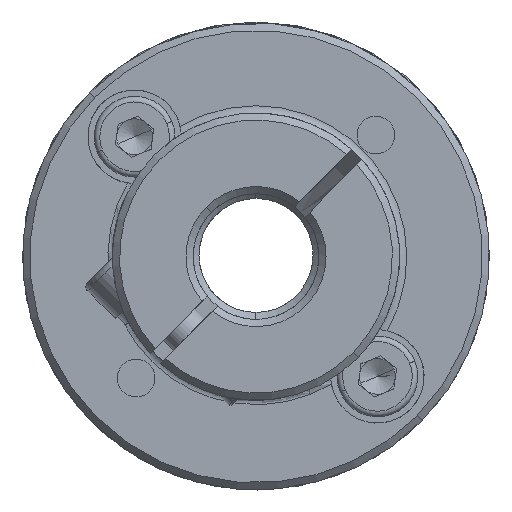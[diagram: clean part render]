
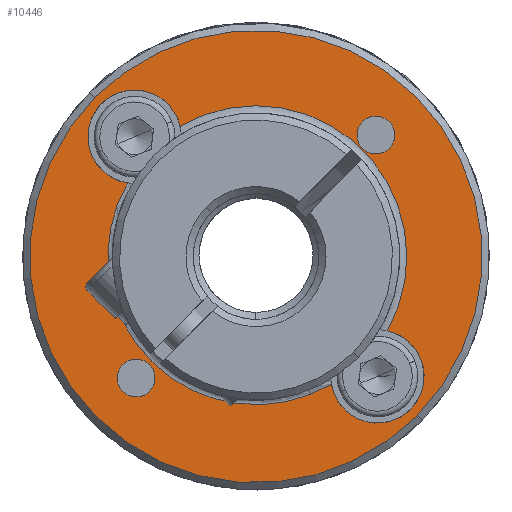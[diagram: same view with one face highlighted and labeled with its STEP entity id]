
A CAD part, front view. The second image highlights one B-rep face of the part: STEP entity #10446.
In plain terms, the highlighted planar face has unit normal (0, -1, 0).
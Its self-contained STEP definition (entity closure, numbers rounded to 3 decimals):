
#40 = DIRECTION ( 'NONE',  ( 0., 1., 0. ) ) ;
#317 = DIRECTION ( 'NONE',  ( 0., 1., 0. ) ) ;
#368 = VERTEX_POINT ( 'NONE', #10139 ) ;
#554 = EDGE_CURVE ( 'NONE', #14956, #13658, #15201, .T. ) ;
#579 = ORIENTED_EDGE ( 'NONE', *, *, #554, .T. ) ;
#591 = EDGE_CURVE ( 'NONE', #1332, #368, #15935, .T. ) ;
#787 = CIRCLE ( 'NONE', #4153, 12.6 ) ;
#926 = EDGE_CURVE ( 'NONE', #3551, #9290, #5737, .T. ) ;
#990 = CARTESIAN_POINT ( 'NONE',  ( -13.043, -18.979, 34.789 ) ) ;
#1194 = CARTESIAN_POINT ( 'NONE',  ( -4.076, -18.979, 25.938 ) ) ;
#1225 = CARTESIAN_POINT ( 'NONE',  ( 4.536, -18.979, 17.438 ) ) ;
#1332 = VERTEX_POINT ( 'NONE', #3846 ) ;
#1342 = CARTESIAN_POINT ( 'NONE',  ( 4.892, -18.979, 17.087 ) ) ;
#1565 = CARTESIAN_POINT ( 'NONE',  ( -10.837, -18.979, 32.611 ) ) ;
#2246 = AXIS2_PLACEMENT_3D ( 'NONE', #18354, #16981, #18491 ) ;
#2779 = CARTESIAN_POINT ( 'NONE',  ( 1.85, -18.979, 33.437 ) ) ;
#2786 = EDGE_CURVE ( 'NONE', #14962, #3551, #8036, .T. ) ;
#2898 = CIRCLE ( 'NONE', #13191, 2.6 ) ;
#2952 = AXIS2_PLACEMENT_3D ( 'NONE', #11645, #7169, #16188 ) ;
#3097 = DIRECTION ( 'NONE',  ( -0.712, 0., 0.702 ) ) ;
#3241 = DIRECTION ( 'NONE',  ( 0., 1., 0. ) ) ;
#3315 = AXIS2_PLACEMENT_3D ( 'NONE', #1565, #18368, #10588 ) ;
#3551 = VERTEX_POINT ( 'NONE', #16205 ) ;
#3846 = CARTESIAN_POINT ( 'NONE',  ( -10.002, -18.979, 18.439 ) ) ;
#4153 = AXIS2_PLACEMENT_3D ( 'NONE', #8856, #4595, #17948 ) ;
#4530 = FACE_BOUND ( 'NONE', #18108, .T. ) ;
#4595 = DIRECTION ( 'NONE',  ( 0., -1., 0. ) ) ;
#4753 = EDGE_CURVE ( 'NONE', #8561, #18554, #11575, .T. ) ;
#4877 = CARTESIAN_POINT ( 'NONE',  ( -8.304, -18.979, 33.196 ) ) ;
#5000 = FACE_BOUND ( 'NONE', #17654, .T. ) ;
#5590 = CARTESIAN_POINT ( 'NONE',  ( 2.686, -18.979, 19.264 ) ) ;
#5605 = ORIENTED_EDGE ( 'NONE', *, *, #6879, .T. ) ;
#5615 = CARTESIAN_POINT ( 'NONE',  ( -10.837, -18.979, 32.611 ) ) ;
#5737 = CIRCLE ( 'NONE', #10328, 2.6 ) ;
#5792 = DIRECTION ( 'NONE',  ( 0., -1., 0. ) ) ;
#5972 = FACE_BOUND ( 'NONE', #10376, .T. ) ;
#6088 = DIRECTION ( 'NONE',  ( 0., 1., 0. ) ) ;
#6378 = CARTESIAN_POINT ( 'NONE',  ( -4.076, -18.979, 25.938 ) ) ;
#6840 = CARTESIAN_POINT ( 'NONE',  ( 2.598, -18.979, 32.699 ) ) ;
#6879 = EDGE_CURVE ( 'NONE', #11346, #6910, #13395, .T. ) ;
#6910 = VERTEX_POINT ( 'NONE', #14578 ) ;
#7029 = DIRECTION ( 'NONE',  ( 0., 1., 0. ) ) ;
#7106 = DIRECTION ( 'NONE',  ( -0.712, 0., 0.702 ) ) ;
#7169 = DIRECTION ( 'NONE',  ( 0., 1., 0. ) ) ;
#7172 = ORIENTED_EDGE ( 'NONE', *, *, #16836, .T. ) ;
#7500 = CARTESIAN_POINT ( 'NONE',  ( -4.076, -18.979, 25.938 ) ) ;
#7522 = AXIS2_PLACEMENT_3D ( 'NONE', #6378, #11005, #12530 ) ;
#8036 = CIRCLE ( 'NONE', #11480, 8.247 ) ;
#8181 = EDGE_CURVE ( 'NONE', #368, #1332, #18292, .T. ) ;
#8246 = ORIENTED_EDGE ( 'NONE', *, *, #13684, .T. ) ;
#8561 = VERTEX_POINT ( 'NONE', #1342 ) ;
#8652 = CIRCLE ( 'NONE', #14707, 1.05 ) ;
#8856 = CARTESIAN_POINT ( 'NONE',  ( -4.076, -18.979, 25.938 ) ) ;
#9290 = VERTEX_POINT ( 'NONE', #9518 ) ;
#9320 = CARTESIAN_POINT ( 'NONE',  ( -10.749, -18.979, 19.176 ) ) ;
#9518 = CARTESIAN_POINT ( 'NONE',  ( -12.688, -18.979, 34.437 ) ) ;
#10004 = FACE_OUTER_BOUND ( 'NONE', #18592, .T. ) ;
#10028 = DIRECTION ( 'NONE',  ( -0.712, 0., 0.702 ) ) ;
#10139 = CARTESIAN_POINT ( 'NONE',  ( -11.496, -18.979, 19.914 ) ) ;
#10328 = AXIS2_PLACEMENT_3D ( 'NONE', #5615, #40, #18215 ) ;
#10357 = EDGE_CURVE ( 'NONE', #13658, #14962, #2898, .T. ) ;
#10376 = EDGE_LOOP ( 'NONE', ( #14283, #15160 ) ) ;
#10446 = ADVANCED_FACE ( 'NONE', ( #10004, #4530, #5972, #5000 ), #16504, .T. ) ;
#10581 = ORIENTED_EDGE ( 'NONE', *, *, #18242, .T. ) ;
#10588 = DIRECTION ( 'NONE',  ( -0.712, 0., 0.702 ) ) ;
#10844 = DIRECTION ( 'NONE',  ( -0.712, 0., 0.702 ) ) ;
#10994 = ORIENTED_EDGE ( 'NONE', *, *, #2786, .T. ) ;
#11005 = DIRECTION ( 'NONE',  ( 0., 1., 0. ) ) ;
#11035 = VERTEX_POINT ( 'NONE', #4877 ) ;
#11346 = VERTEX_POINT ( 'NONE', #2779 ) ;
#11480 = AXIS2_PLACEMENT_3D ( 'NONE', #18433, #3241, #10844 ) ;
#11575 = CIRCLE ( 'NONE', #17732, 12.6 ) ;
#11616 = AXIS2_PLACEMENT_3D ( 'NONE', #18106, #6088, #18159 ) ;
#11645 = CARTESIAN_POINT ( 'NONE',  ( 2.598, -18.979, 32.699 ) ) ;
#11695 = CIRCLE ( 'NONE', #7522, 8.4 ) ;
#11790 = ORIENTED_EDGE ( 'NONE', *, *, #10357, .T. ) ;
#12530 = DIRECTION ( 'NONE',  ( -0.712, 0., 0.702 ) ) ;
#13191 = AXIS2_PLACEMENT_3D ( 'NONE', #5590, #16194, #7106 ) ;
#13243 = DIRECTION ( 'NONE',  ( 0., -1., 0. ) ) ;
#13395 = CIRCLE ( 'NONE', #2952, 1.05 ) ;
#13658 = VERTEX_POINT ( 'NONE', #1225 ) ;
#13684 = EDGE_CURVE ( 'NONE', #18554, #8561, #787, .T. ) ;
#13857 = CIRCLE ( 'NONE', #3315, 2.6 ) ;
#14283 = ORIENTED_EDGE ( 'NONE', *, *, #591, .T. ) ;
#14578 = CARTESIAN_POINT ( 'NONE',  ( 3.345, -18.979, 31.962 ) ) ;
#14707 = AXIS2_PLACEMENT_3D ( 'NONE', #6840, #7029, #17418 ) ;
#14956 = VERTEX_POINT ( 'NONE', #15296 ) ;
#14962 = VERTEX_POINT ( 'NONE', #15716 ) ;
#15160 = ORIENTED_EDGE ( 'NONE', *, *, #8181, .T. ) ;
#15201 = CIRCLE ( 'NONE', #2246, 2.6 ) ;
#15296 = CARTESIAN_POINT ( 'NONE',  ( 3.238, -18.979, 21.805 ) ) ;
#15716 = CARTESIAN_POINT ( 'NONE',  ( 0.121, -18.979, 18.838 ) ) ;
#15935 = CIRCLE ( 'NONE', #17785, 1.05 ) ;
#16188 = DIRECTION ( 'NONE',  ( -0.712, 0., 0.702 ) ) ;
#16194 = DIRECTION ( 'NONE',  ( 0., 1., 0. ) ) ;
#16205 = CARTESIAN_POINT ( 'NONE',  ( -11.23, -18.979, 30.041 ) ) ;
#16225 = ORIENTED_EDGE ( 'NONE', *, *, #19453, .T. ) ;
#16504 = PLANE ( 'NONE',  #17620 ) ;
#16667 = ORIENTED_EDGE ( 'NONE', *, *, #4753, .T. ) ;
#16836 = EDGE_CURVE ( 'NONE', #6910, #11346, #8652, .T. ) ;
#16981 = DIRECTION ( 'NONE',  ( 0., 1., 0. ) ) ;
#17418 = DIRECTION ( 'NONE',  ( -0.712, 0., 0.702 ) ) ;
#17620 = AXIS2_PLACEMENT_3D ( 'NONE', #7500, #5792, #18057 ) ;
#17654 = EDGE_LOOP ( 'NONE', ( #579, #11790, #10994, #19224, #10581, #16225 ) ) ;
#17732 = AXIS2_PLACEMENT_3D ( 'NONE', #1194, #13243, #10028 ) ;
#17785 = AXIS2_PLACEMENT_3D ( 'NONE', #9320, #317, #3097 ) ;
#17948 = DIRECTION ( 'NONE',  ( -0.712, 0., 0.702 ) ) ;
#18057 = DIRECTION ( 'NONE',  ( -0.712, 0., 0.702 ) ) ;
#18106 = CARTESIAN_POINT ( 'NONE',  ( -10.749, -18.979, 19.176 ) ) ;
#18108 = EDGE_LOOP ( 'NONE', ( #7172, #5605 ) ) ;
#18159 = DIRECTION ( 'NONE',  ( -0.712, 0., 0.702 ) ) ;
#18215 = DIRECTION ( 'NONE',  ( -0.712, 0., 0.702 ) ) ;
#18242 = EDGE_CURVE ( 'NONE', #9290, #11035, #13857, .T. ) ;
#18292 = CIRCLE ( 'NONE', #11616, 1.05 ) ;
#18354 = CARTESIAN_POINT ( 'NONE',  ( 2.686, -18.979, 19.264 ) ) ;
#18368 = DIRECTION ( 'NONE',  ( 0., 1., 0. ) ) ;
#18433 = CARTESIAN_POINT ( 'NONE',  ( -4.076, -18.979, 25.938 ) ) ;
#18491 = DIRECTION ( 'NONE',  ( -0.712, 0., 0.702 ) ) ;
#18554 = VERTEX_POINT ( 'NONE', #990 ) ;
#18592 = EDGE_LOOP ( 'NONE', ( #16667, #8246 ) ) ;
#19224 = ORIENTED_EDGE ( 'NONE', *, *, #926, .T. ) ;
#19453 = EDGE_CURVE ( 'NONE', #11035, #14956, #11695, .T. ) ;
